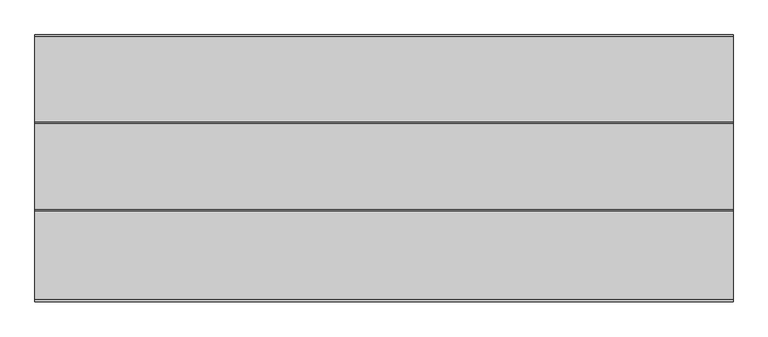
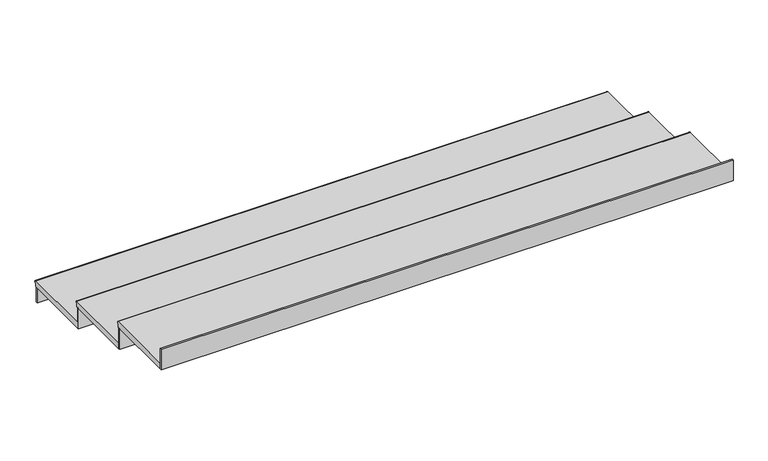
"""IFC4 building model written with IfcOpenShell, lengths in millimetres: stair flight geometry, Wood Steps with 50 mm Tread 20 mm Nosing 13 mm Riser."""

from ifc_helpers import new_model, si_unit, point, frame, frame_2d, origin, place, context, project, spatial, polyline, circle_curve, trimmed, segment, composite_curve, outline, extrude, source, transform, mapped, element, save


def stair_flight_88d4f093(model_context):
    return source(origin(), model_context, "Body", "SweptSolid", [
        extrude(outline(composite_curve([segment(polyline([(17946.6908407, 7379.2941176), (18545.1016126, 7379.2941176)]), True, "CONTINUOUS"), segment(trimmed(circle_curve(frame_2d((18545.1016126, 7369.2941176)), 10.0), [point((18545.1016126, 7379.2941176))], [point((18545.1016126, 7359.2941176))], False, "CARTESIAN"), True, "CONTINUOUS"), segment(polyline([(18545.1016126, 7359.2941176), (18545.1016126, 7329.2941176), (17946.6908407, 7329.2941176), (17946.6908407, 7379.2941176)]), True, "CONTINUOUS")], self_intersect=False)), frame((978505.0368874, 0.0, 0.0), z_axis=(1.0, 0.0, 0.0), x_axis=(0.0, 1.0, 0.0)), (0.0, 0.0, 1.0), 4704.3823152),
        extrude(outline(polyline([(978505.0368874, 18522.6016126), (978505.0368874, 18535.1016126), (983209.4192027, 18535.1016126), (983209.4192027, 18522.6016126), (978505.0368874, 18522.6016126)])), frame((0.0, 0.0, 7200.0), z_axis=(0.0, 0.0, 1.0), x_axis=(1.0, 0.0, 0.0)), (0.0, 0.0, 1.0), 129.2941176),
        extrude(outline(polyline([(978505.0368874, 17934.1908407), (978505.0368874, 17946.6908407), (983209.4192027, 17946.6908407), (983209.4192027, 17934.1908407), (978505.0368874, 17934.1908407)])), frame((0.0, 0.0, 7329.2941176), z_axis=(0.0, 0.0, 1.0), x_axis=(1.0, 0.0, 0.0)), (0.0, 0.0, 1.0), 179.2941176),
        extrude(outline(composite_curve([segment(polyline([(17358.2800687, 7558.5882353), (17956.6908407, 7558.5882353)]), True, "CONTINUOUS"), segment(trimmed(circle_curve(frame_2d((17956.6908407, 7548.5882353)), 10.0), [point((17956.6908407, 7558.5882353))], [point((17956.6908407, 7538.5882353))], False, "CARTESIAN"), True, "CONTINUOUS"), segment(polyline([(17956.6908407, 7538.5882353), (17956.6908407, 7508.5882353), (17358.2800687, 7508.5882353), (17358.2800687, 7558.5882353)]), True, "CONTINUOUS")], self_intersect=False)), frame((978505.0368874, 0.0, 0.0), z_axis=(1.0, 0.0, 0.0), x_axis=(0.0, 1.0, 0.0)), (0.0, 0.0, 1.0), 4704.3823152),
        extrude(outline(polyline([(978505.0368874, 17345.7800687), (978505.0368874, 17358.2800687), (983209.4192027, 17358.2800687), (983209.4192027, 17345.7800687), (978505.0368874, 17345.7800687)])), frame((0.0, 0.0, 7508.5882353), z_axis=(0.0, 0.0, 1.0), x_axis=(1.0, 0.0, 0.0)), (0.0, 0.0, 1.0), 179.2941176),
        extrude(outline(polyline([(978505.0368874, 16757.3692967), (978505.0368874, 16769.8692967), (983209.4192027, 16769.8692967), (983209.4192027, 16757.3692967), (978505.0368874, 16757.3692967)])), frame((0.0, 0.0, 7687.8823529), z_axis=(0.0, 0.0, 1.0), x_axis=(1.0, 0.0, 0.0)), (0.0, 0.0, 1.0), 179.2941176),
        extrude(outline(composite_curve([segment(polyline([(16769.8692967, 7737.8823529), (17368.2800687, 7737.8823529)]), True, "CONTINUOUS"), segment(trimmed(circle_curve(frame_2d((17368.2800687, 7727.8823529)), 10.0), [point((17368.2800687, 7737.8823529))], [point((17368.2800687, 7717.8823529))], False, "CARTESIAN"), True, "CONTINUOUS"), segment(polyline([(17368.2800687, 7717.8823529), (17368.2800687, 7687.8823529), (16769.8692967, 7687.8823529), (16769.8692967, 7737.8823529)]), True, "CONTINUOUS")], self_intersect=False)), frame((978505.0368874, 0.0, 0.0), z_axis=(1.0, 0.0, 0.0), x_axis=(0.0, 1.0, 0.0)), (0.0, 0.0, 1.0), 4704.3823152),
    ])


if __name__ == "__main__":
    model = new_model("IFC4")
    model_context = context("Model", 3, world=origin())
    ifc_project = project(units=[si_unit("LENGTHUNIT", "METRE", prefix="MILLI")], contexts=[model_context])
    site = spatial("IfcSite", under=ifc_project)
    building = spatial("IfcBuilding", under=site)
    placement = place(None, origin())
    stair_flight_shape = stair_flight_88d4f093(model_context)
    element("IfcStairFlight", 1, ObjectType="Wood Steps with 50 mm Tread 20 mm Nosing 13 mm Riser", at=placement, inside=building, context=model_context, shape_type="MappedRepresentation", body=[
        mapped(stair_flight_shape, transform((0.0, 0.0, 0.0), x_axis=(1.0, 0.0, 0.0), y_axis=(0.0, 1.0, 0.0), z_axis=(0.0, 0.0, 1.0))),
    ])
    save(model, "model.ifc")
